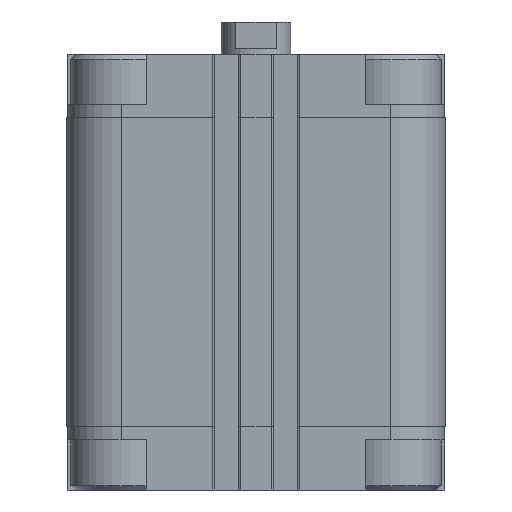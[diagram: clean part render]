
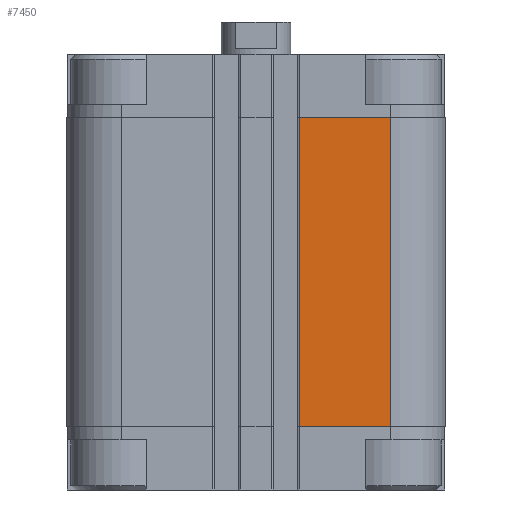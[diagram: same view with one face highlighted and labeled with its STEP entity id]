
A CAD part, front view. The second image highlights one B-rep face of the part: STEP entity #7450.
In plain terms, the highlighted planar face has unit normal (0, -1, 0).
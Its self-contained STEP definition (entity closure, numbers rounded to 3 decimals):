
#97 = VECTOR ( 'NONE', #1781, 1000. ) ;
#554 = PLANE ( 'NONE',  #12587 ) ;
#744 = DIRECTION ( 'NONE',  ( 0., -1., 0. ) ) ;
#807 = VERTEX_POINT ( 'NONE', #12060 ) ;
#1030 = VERTEX_POINT ( 'NONE', #19034 ) ;
#1781 = DIRECTION ( 'NONE',  ( 0., 0., 1. ) ) ;
#1922 = DIRECTION ( 'NONE',  ( 1., 0., 0. ) ) ;
#3235 = LINE ( 'NONE', #18105, #97 ) ;
#4503 = ORIENTED_EDGE ( 'NONE', *, *, #12434, .T. ) ;
#5471 = EDGE_LOOP ( 'NONE', ( #19030, #17533, #4503, #11397 ) ) ;
#5605 = EDGE_CURVE ( 'NONE', #12638, #1030, #3235, .T. ) ;
#6284 = DIRECTION ( 'NONE',  ( -1., 0., 0. ) ) ;
#6793 = DIRECTION ( 'NONE',  ( 1., 0., 0. ) ) ;
#7450 = ADVANCED_FACE ( 'NONE', ( #9308 ), #554, .T. ) ;
#9308 = FACE_OUTER_BOUND ( 'NONE', #5471, .T. ) ;
#9518 = CARTESIAN_POINT ( 'NONE',  ( 31., -43.5, -85.5 ) ) ;
#9772 = VECTOR ( 'NONE', #6793, 1000. ) ;
#10213 = CARTESIAN_POINT ( 'NONE',  ( 10.05, -43.5, -85.5 ) ) ;
#10679 = CARTESIAN_POINT ( 'NONE',  ( 10.05, -43.5, -85.5 ) ) ;
#10686 = EDGE_CURVE ( 'NONE', #807, #14929, #19051, .T. ) ;
#10694 = LINE ( 'NONE', #13093, #9772 ) ;
#11397 = ORIENTED_EDGE ( 'NONE', *, *, #5605, .T. ) ;
#12036 = LINE ( 'NONE', #10679, #15602 ) ;
#12060 = CARTESIAN_POINT ( 'NONE',  ( 10.05, -43.5, -85.5 ) ) ;
#12434 = EDGE_CURVE ( 'NONE', #807, #12638, #12036, .T. ) ;
#12587 = AXIS2_PLACEMENT_3D ( 'NONE', #16590, #744, #6284 ) ;
#12638 = VERTEX_POINT ( 'NONE', #9518 ) ;
#13030 = DIRECTION ( 'NONE',  ( 0., 0., 1. ) ) ;
#13093 = CARTESIAN_POINT ( 'NONE',  ( 10.05, -43.5, -14.5 ) ) ;
#14495 = VECTOR ( 'NONE', #13030, 1000. ) ;
#14922 = CARTESIAN_POINT ( 'NONE',  ( 10.05, -43.5, -14.5 ) ) ;
#14929 = VERTEX_POINT ( 'NONE', #14922 ) ;
#15602 = VECTOR ( 'NONE', #1922, 1000. ) ;
#15920 = EDGE_CURVE ( 'NONE', #14929, #1030, #10694, .T. ) ;
#16590 = CARTESIAN_POINT ( 'NONE',  ( 10.05, -43.5, -85.5 ) ) ;
#17533 = ORIENTED_EDGE ( 'NONE', *, *, #10686, .F. ) ;
#18105 = CARTESIAN_POINT ( 'NONE',  ( 31., -43.5, -85.5 ) ) ;
#19030 = ORIENTED_EDGE ( 'NONE', *, *, #15920, .F. ) ;
#19034 = CARTESIAN_POINT ( 'NONE',  ( 31., -43.5, -14.5 ) ) ;
#19051 = LINE ( 'NONE', #10213, #14495 ) ;
